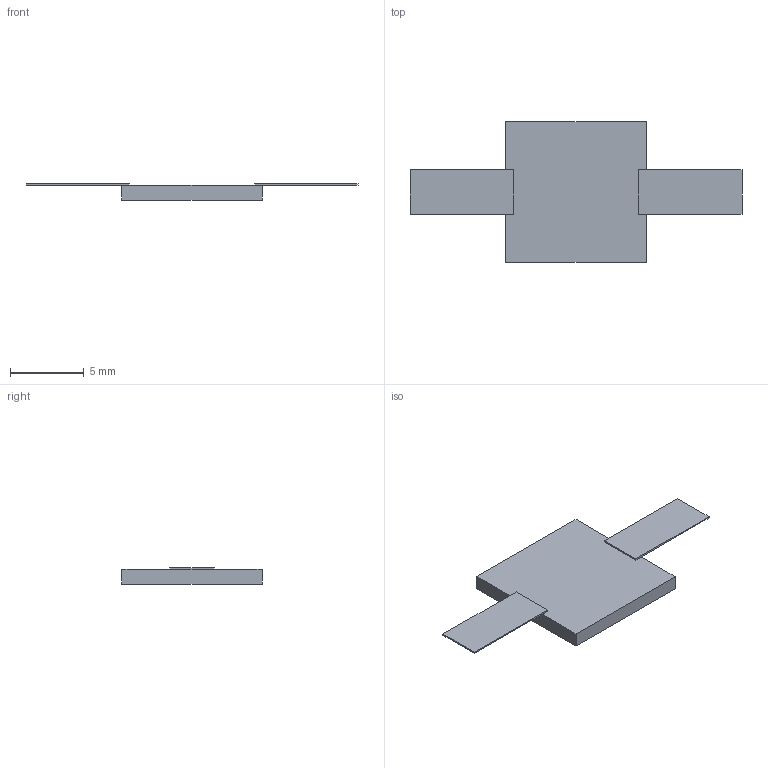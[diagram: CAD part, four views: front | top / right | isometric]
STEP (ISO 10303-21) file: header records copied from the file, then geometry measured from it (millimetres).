
FILE_DESCRIPTION(('STEP AP203'), '1');
FILE_NAME('P1-170-250-42', '', ('UNSPECIFIED'), ('UNSPECIFIED'), 'ASCON STEP Converter 1.6', 'ASCON Math Kernel', '');
FILE_SCHEMA(('CONFIG_CONTROL_DESIGN'));
Length unit declared in the file: millimetre
Bounding box: 22.5 x 9.5 x 1.1 mm (x, y, z)
Volume: 94.5 mm3; surface area: 300.5 mm2
Topology: 1 solids, 1 shells, 18 faces, 44 edges, 28 vertices
Faces by surface type: plane 18
Entity records: 704 total; most frequent: CARTESIAN_POINT 91, ORIENTED_EDGE 88, DIRECTION 82, EDGE_CURVE 44, LINE 44, VECTOR 44, VERTEX_POINT 28, AXIS2_PLACEMENT_3D 19
